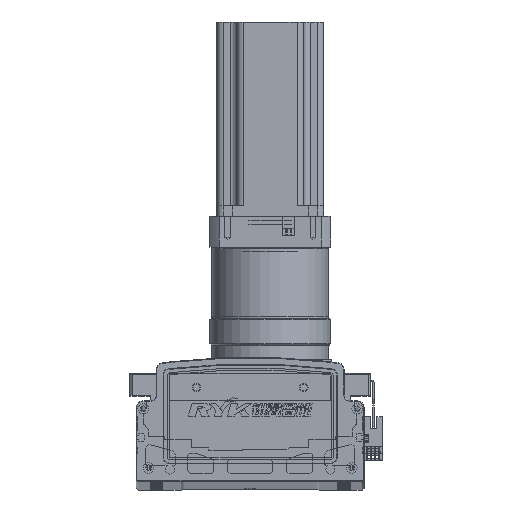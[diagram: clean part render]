
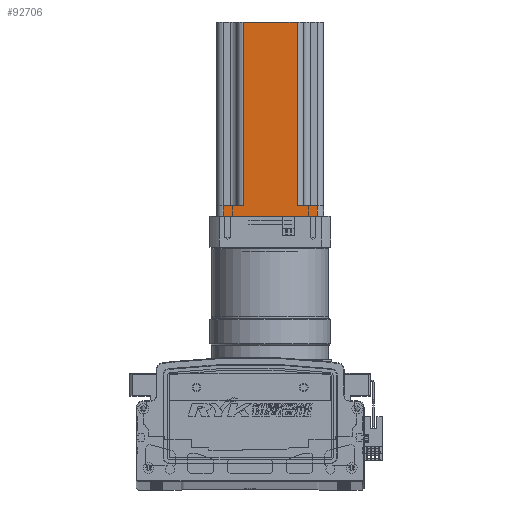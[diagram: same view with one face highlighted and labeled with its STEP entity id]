
A CAD part, top view. The second image highlights one B-rep face of the part: STEP entity #92706.
In plain terms, the highlighted planar face has unit normal (0, 0, 1) as drawn and (0, -1, 0) by its records, which use the part's own axes.
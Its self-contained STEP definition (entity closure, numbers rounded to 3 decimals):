
#17757 = EDGE_LOOP ( 'NONE', ( #100629, #100677, #100829, #100621, #100801, #100755, #100707, #100887 ) ) ;
#18889 = VERTEX_POINT ( 'NONE', #85593 ) ;
#19049 = VERTEX_POINT ( 'NONE', #85638 ) ;
#19094 = VERTEX_POINT ( 'NONE', #85757 ) ;
#19182 = VERTEX_POINT ( 'NONE', #85674 ) ;
#19201 = VERTEX_POINT ( 'NONE', #85671 ) ;
#19208 = VERTEX_POINT ( 'NONE', #85707 ) ;
#19215 = VERTEX_POINT ( 'NONE', #85788 ) ;
#19241 = VERTEX_POINT ( 'NONE', #85852 ) ;
#24036 = EDGE_CURVE ( 'NONE', #18889, #19094, #92006, .T. ) ;
#24064 = EDGE_CURVE ( 'NONE', #19241, #19049, #90921, .T. ) ;
#24072 = EDGE_CURVE ( 'NONE', #19241, #19182, #82829, .T. ) ;
#24087 = EDGE_CURVE ( 'NONE', #19215, #18889, #82801, .T. ) ;
#24098 = EDGE_CURVE ( 'NONE', #19201, #19049, #82875, .T. ) ;
#24099 = EDGE_CURVE ( 'NONE', #19201, #19208, #82899, .T. ) ;
#24102 = EDGE_CURVE ( 'NONE', #19215, #19208, #82824, .T. ) ;
#24105 = EDGE_CURVE ( 'NONE', #19094, #19182, #82957, .T. ) ;
#53741 = AXIS2_PLACEMENT_3D ( 'NONE', #57264, #57554, #57898 ) ;
#56948 = PLANE ( 'NONE',  #53741 ) ;
#57264 = CARTESIAN_POINT ( 'NONE',  ( -87.587, -40.37, 145. ) ) ;
#57554 = DIRECTION ( 'NONE',  ( 0., 1., 0. ) ) ;
#57898 = DIRECTION ( 'NONE',  ( -1., 0., 0. ) ) ;
#61114 = FACE_OUTER_BOUND ( 'NONE', #17757, .T. ) ;
#82801 = LINE ( 'NONE', #83504, #82808 ) ;
#82803 = VECTOR ( 'NONE', #83496, 1000. ) ;
#82808 = VECTOR ( 'NONE', #83535, 1000. ) ;
#82822 = VECTOR ( 'NONE', #83515, 1000. ) ;
#82824 = LINE ( 'NONE', #83577, #82822 ) ;
#82829 = LINE ( 'NONE', #83482, #82803 ) ;
#82875 = LINE ( 'NONE', #83562, #82880 ) ;
#82880 = VECTOR ( 'NONE', #83539, 1000. ) ;
#82899 = LINE ( 'NONE', #83556, #82903 ) ;
#82903 = VECTOR ( 'NONE', #83560, 1000. ) ;
#82914 = VECTOR ( 'NONE', #83663, 1000. ) ;
#82957 = LINE ( 'NONE', #83627, #82914 ) ;
#83230 = DIRECTION ( 'NONE',  ( 1., 0., 0. ) ) ;
#83265 = CARTESIAN_POINT ( 'NONE',  ( -87.587, -40.37, 0. ) ) ;
#83330 = CARTESIAN_POINT ( 'NONE',  ( -27.587, -40.37, 145. ) ) ;
#83393 = DIRECTION ( 'NONE',  ( 0., 0., 1. ) ) ;
#83482 = CARTESIAN_POINT ( 'NONE',  ( -7.587, -40.37, 8. ) ) ;
#83496 = DIRECTION ( 'NONE',  ( 1., 0., 0. ) ) ;
#83504 = CARTESIAN_POINT ( 'NONE',  ( -82.587, -40.37, 145. ) ) ;
#83515 = DIRECTION ( 'NONE',  ( 1., 0., 0. ) ) ;
#83535 = DIRECTION ( 'NONE',  ( 0., 0., -1. ) ) ;
#83539 = DIRECTION ( 'NONE',  ( 1., 0., 0. ) ) ;
#83556 = CARTESIAN_POINT ( 'NONE',  ( -67.587, -40.37, 145. ) ) ;
#83560 = DIRECTION ( 'NONE',  ( 0., 0., -1. ) ) ;
#83562 = CARTESIAN_POINT ( 'NONE',  ( -87.587, -40.37, 145. ) ) ;
#83577 = CARTESIAN_POINT ( 'NONE',  ( -87.587, -40.37, 8. ) ) ;
#83627 = CARTESIAN_POINT ( 'NONE',  ( -12.587, -40.37, 145. ) ) ;
#83663 = DIRECTION ( 'NONE',  ( 0., 0., 1. ) ) ;
#85593 = CARTESIAN_POINT ( 'NONE',  ( -82.587, -40.37, 0. ) ) ;
#85638 = CARTESIAN_POINT ( 'NONE',  ( -27.587, -40.37, 145. ) ) ;
#85671 = CARTESIAN_POINT ( 'NONE',  ( -67.587, -40.37, 145. ) ) ;
#85674 = CARTESIAN_POINT ( 'NONE',  ( -12.587, -40.37, 8. ) ) ;
#85707 = CARTESIAN_POINT ( 'NONE',  ( -67.587, -40.37, 8. ) ) ;
#85757 = CARTESIAN_POINT ( 'NONE',  ( -12.587, -40.37, 0. ) ) ;
#85788 = CARTESIAN_POINT ( 'NONE',  ( -82.587, -40.37, 8. ) ) ;
#85852 = CARTESIAN_POINT ( 'NONE',  ( -27.587, -40.37, 8. ) ) ;
#90921 = LINE ( 'NONE', #83330, #91077 ) ;
#91077 = VECTOR ( 'NONE', #83393, 1000. ) ;
#91981 = VECTOR ( 'NONE', #83230, 1000. ) ;
#92006 = LINE ( 'NONE', #83265, #91981 ) ;
#92706 = ADVANCED_FACE ( 'NONE', ( #61114 ), #56948, .F. ) ;
#100621 = ORIENTED_EDGE ( 'NONE', *, *, #24105, .T. ) ;
#100629 = ORIENTED_EDGE ( 'NONE', *, *, #24102, .F. ) ;
#100677 = ORIENTED_EDGE ( 'NONE', *, *, #24087, .T. ) ;
#100707 = ORIENTED_EDGE ( 'NONE', *, *, #24098, .F. ) ;
#100755 = ORIENTED_EDGE ( 'NONE', *, *, #24064, .T. ) ;
#100801 = ORIENTED_EDGE ( 'NONE', *, *, #24072, .F. ) ;
#100829 = ORIENTED_EDGE ( 'NONE', *, *, #24036, .T. ) ;
#100887 = ORIENTED_EDGE ( 'NONE', *, *, #24099, .T. ) ;
